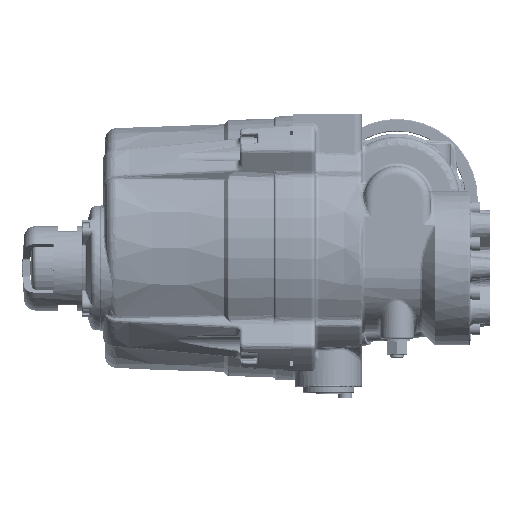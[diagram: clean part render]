
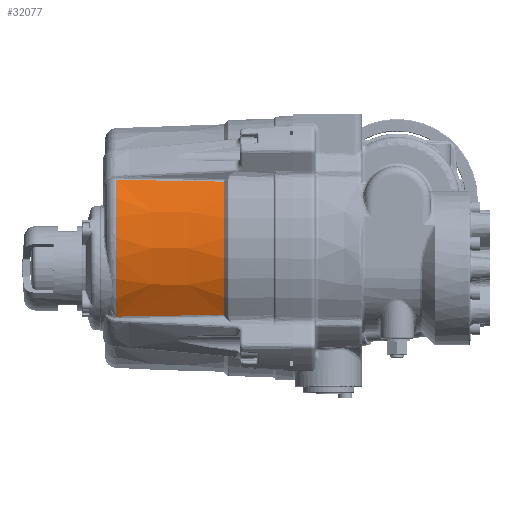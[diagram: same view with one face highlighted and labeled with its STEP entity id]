
A CAD part, left-side view. The second image highlights one B-rep face of the part: STEP entity #32077.
In plain terms, the highlighted conical face has half-angle 2 degrees and reference radius 74 mm.
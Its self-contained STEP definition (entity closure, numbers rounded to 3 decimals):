
#5389 = DIRECTION ( 'NONE',  ( 0., -1., 0. ) ) ;
#17233 = CARTESIAN_POINT ( 'NONE',  ( -61.295, 62.977, 40.149 ) ) ;
#32077 = ADVANCED_FACE ( 'NONE', ( #55536 ), #48040, .T. ) ;
#46899 = ORIENTED_EDGE ( 'NONE', *, *, #303062, .T. ) ;
#48040 = CONICAL_SURFACE ( 'NONE', #260245, 74., 0.035 ) ;
#55536 = FACE_OUTER_BOUND ( 'NONE', #87420, .T. ) ;
#65345 = VERTEX_POINT ( 'NONE', #169792 ) ;
#87420 = EDGE_LOOP ( 'NONE', ( #250202, #300534, #152894, #46899 ) ) ;
#92217 = CARTESIAN_POINT ( 'NONE',  ( -59.008, 105.744, 40.86 ) ) ;
#105266 = CARTESIAN_POINT ( 'NONE',  ( -59.008, 105.744, -40.86 ) ) ;
#123855 = AXIS2_PLACEMENT_3D ( 'NONE', #137592, #304503, #161513 ) ;
#137592 = CARTESIAN_POINT ( 'NONE',  ( 0., 41.593, 0. ) ) ;
#140978 = CARTESIAN_POINT ( 'NONE',  ( 0., 42., 0. ) ) ;
#144795 = EDGE_CURVE ( 'NONE', #65345, #193924, #262452, .T. ) ;
#148235 = CARTESIAN_POINT ( 'NONE',  ( 0., 105.744, 0. ) ) ;
#152894 = ORIENTED_EDGE ( 'NONE', *, *, #144795, .T. ) ;
#153156 = CARTESIAN_POINT ( 'NONE',  ( -62.424, 41.593, -39.766 ) ) ;
#157120 = CIRCLE ( 'NONE', #283593, 71.774 ) ;
#161513 = DIRECTION ( 'NONE',  ( 0., 0., 1. ) ) ;
#166277 = VERTEX_POINT ( 'NONE', #302701 ) ;
#169792 = CARTESIAN_POINT ( 'NONE',  ( -62.424, 41.593, -39.766 ) ) ;
#172161 = DIRECTION ( 'NONE',  ( 0., 0., -1. ) ) ;
#190827 = VERTEX_POINT ( 'NONE', #229003 ) ;
#193924 = VERTEX_POINT ( 'NONE', #223783 ) ;
#203598 = EDGE_CURVE ( 'NONE', #190827, #166277, #157120, .T. ) ;
#211098 = CARTESIAN_POINT ( 'NONE',  ( -62.424, 41.593, 39.766 ) ) ;
#222627 = EDGE_CURVE ( 'NONE', #166277, #65345, #290801, .T. ) ;
#223783 = CARTESIAN_POINT ( 'NONE',  ( -62.424, 41.593, 39.766 ) ) ;
#229003 = CARTESIAN_POINT ( 'NONE',  ( -59.008, 105.744, 40.86 ) ) ;
#235099 = CARTESIAN_POINT ( 'NONE',  ( -60.156, 84.361, 40.514 ) ) ;
#248073 = CARTESIAN_POINT ( 'NONE',  ( -60.156, 84.361, -40.514 ) ) ;
#250202 = ORIENTED_EDGE ( 'NONE', *, *, #203598, .T. ) ;
#260245 = AXIS2_PLACEMENT_3D ( 'NONE', #140978, #307880, #283931 ) ;
#262452 = CIRCLE ( 'NONE', #123855, 74.014 ) ;
#283242 = B_SPLINE_CURVE_WITH_KNOTS ( 'NONE', 3,
 ( #211098, #17233, #235099, #92217 ),
 .UNSPECIFIED., .F., .F.,
 ( 4, 4 ),
 ( 0., 0.064 ),
 .UNSPECIFIED. ) ;
#283593 = AXIS2_PLACEMENT_3D ( 'NONE', #148235, #5389, #172161 ) ;
#283931 = DIRECTION ( 'NONE',  ( 0., 0., 1. ) ) ;
#290801 = B_SPLINE_CURVE_WITH_KNOTS ( 'NONE', 3,
 ( #105266, #248073, #296207, #153156 ),
 .UNSPECIFIED., .F., .F.,
 ( 4, 4 ),
 ( 0., 0.064 ),
 .UNSPECIFIED. ) ;
#296207 = CARTESIAN_POINT ( 'NONE',  ( -61.295, 62.977, -40.149 ) ) ;
#300534 = ORIENTED_EDGE ( 'NONE', *, *, #222627, .T. ) ;
#302701 = CARTESIAN_POINT ( 'NONE',  ( -59.008, 105.744, -40.86 ) ) ;
#303062 = EDGE_CURVE ( 'NONE', #193924, #190827, #283242, .T. ) ;
#304503 = DIRECTION ( 'NONE',  ( 0., 1., 0. ) ) ;
#307880 = DIRECTION ( 'NONE',  ( 0., -1., 0. ) ) ;
